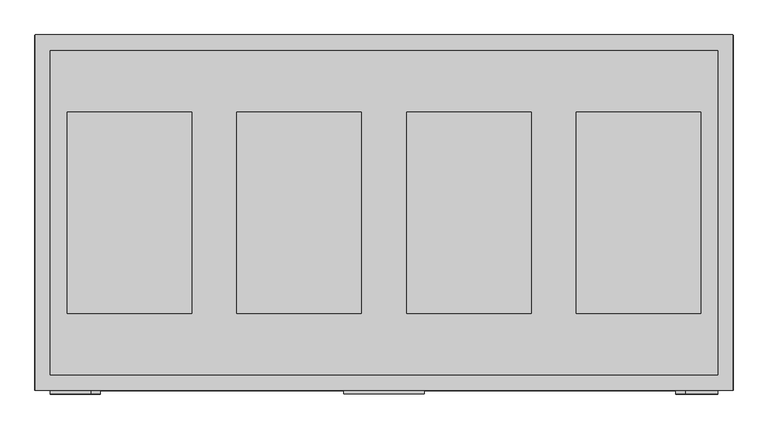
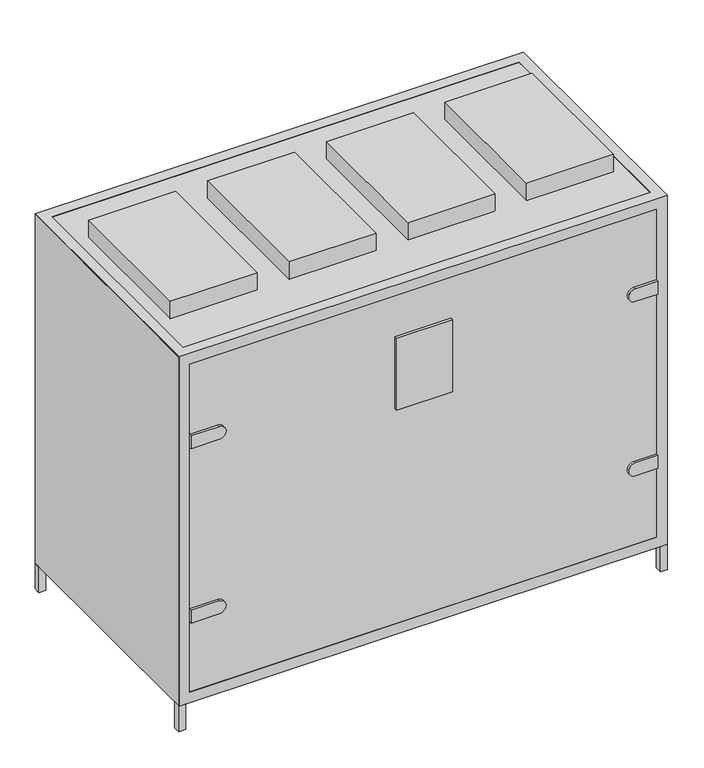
"""IFC4 building model written with IfcOpenShell, lengths in millimetres: proxy geometry, AVS 2200...3800-V-RC(RG) : AVS 2900-V-RG."""

from ifc_helpers import new_model, si_unit, point, frame, frame_2d, origin, origin_with_axes, place, context, project, spatial, polyline, circle_curve, trimmed, segment, composite_curve, outline, extrude, faceted_brep, source, transform, mapped, element, save


def mechanical_equipment_fb35fa56(model_context):
    return source(origin(), model_context, "Body", "SolidModel", [
        extrude(outline(polyline([(875.0, 458.0), (900.0, 458.0), (900.0, 433.0), (875.0, 433.0), (875.0, 458.0)])), origin_with_axes(), (0.0, 0.0, 1.0), 100.0),
        extrude(outline(polyline([(875.0, -458.0), (875.0, -433.0), (900.0, -433.0), (900.0, -458.0), (875.0, -458.0)])), origin_with_axes(), (0.0, 0.0, 1.0), 100.0),
        extrude(outline(polyline([(-900.0, 433.0), (-900.0, 458.0), (-875.0, 458.0), (-875.0, 433.0), (-900.0, 433.0)])), origin_with_axes(), (0.0, 0.0, 1.0), 100.0),
        extrude(outline(polyline([(-900.0, -433.0), (-875.0, -433.0), (-875.0, -458.0), (-900.0, -458.0), (-900.0, -433.0)])), origin_with_axes(), (0.0, 0.0, 1.0), 100.0),
        faceted_brep([(899.0, 459.0, 1458.0), (-899.0, 459.0, 1458.0), (-899.0, -459.0, 1458.0), (899.0, -459.0, 1458.0), (-860.0, 418.0, 1458.0), (20.0, 418.0, 1458.0), (860.0, 418.0, 1458.0), (860.0, -418.0, 1458.0), (20.0, -418.0, 1458.0), (-860.0, -418.0, 1458.0), (899.0, 459.0, 99.0), (899.0, -459.0, 99.0), (-899.0, -459.0, 99.0), (-899.0, 459.0, 99.0), (20.0, 418.0, 99.0), (-860.0, 418.0, 99.0), (-860.0, -418.0, 99.0), (20.0, -418.0, 99.0), (860.0, -418.0, 99.0), (860.0, 418.0, 99.0), (20.0, 459.0, 1417.0), (-860.0, 459.0, 1417.0), (-860.0, 459.0, 140.0), (20.0, 459.0, 140.0), (860.0, 459.0, 140.0), (860.0, 459.0, 1417.0), (-899.0, -418.0, 1417.0), (-899.0, -418.0, 140.0), (-899.0, 418.0, 140.0), (-899.0, 418.0, 1417.0), (-860.0, -459.0, 1417.0), (20.0, -459.0, 1417.0), (860.0, -459.0, 1417.0), (860.0, -459.0, 140.0), (20.0, -459.0, 140.0), (-860.0, -459.0, 140.0), (-860.0, 418.0, 1417.0), (20.0, 418.0, 1417.0), (20.0, 418.0, 140.0), (-860.0, 418.0, 140.0), (20.0, -418.0, 1417.0), (-860.0, -418.0, 1417.0), (-860.0, -418.0, 140.0), (20.0, -418.0, 140.0), (860.0, 418.0, 1417.0), (860.0, -418.0, 1417.0), (860.0, -418.0, 140.0), (860.0, 418.0, 140.0), (866.0, -418.0, 1417.0), (866.0, 418.0, 1417.0), (866.0, 418.0, 140.0), (866.0, -418.0, 140.0)], [[[0, 1, 2, 3], [4, 5, 6, 7, 8, 9]], [[10, 11, 12, 13], [14, 15, 16, 17, 18, 19]], [[1, 0, 10, 13], [20, 21, 22, 23, 24, 25]], [[2, 1, 13, 12], [26, 27, 28, 29]], [[3, 2, 12, 11], [30, 31, 32, 33, 34, 35]], [[0, 3, 11, 10]], [[5, 4, 36, 37]], [[15, 14, 38, 39]], [[9, 8, 40, 41]], [[17, 16, 42, 43]], [[7, 6, 44, 45]], [[19, 18, 46, 47]], [[32, 45, 46, 33]], [[44, 25, 24, 47]], [[30, 41, 40, 31]], [[20, 37, 36, 21]], [[42, 35, 34, 43]], [[38, 23, 22, 39]], [[48, 49, 50, 51]], [[48, 51, 46, 45]], [[26, 41, 42, 27]], [[51, 50, 47, 46]], [[39, 28, 27, 42]], [[50, 49, 44, 47]], [[36, 29, 28, 39]], [[49, 48, 45, 44]], [[29, 36, 41, 26]], [[4, 9, 41, 36]], [[16, 15, 39, 42]], [[41, 30, 35, 42]], [[21, 36, 39, 22]], [[6, 5, 37, 44]], [[14, 19, 47, 38]], [[8, 7, 45, 40]], [[18, 17, 43, 46]], [[45, 32, 31, 40]], [[37, 20, 25, 44]], [[33, 46, 43, 34]], [[23, 38, 47, 24]]]),
        extrude(outline(polyline([(-900.0, 458.0), (900.0, 458.0), (900.0, -458.0), (-900.0, -458.0), (-900.0, 458.0)])), frame((0.0, 0.0, 100.0), z_axis=(0.0, 0.0, 1.0), x_axis=(1.0, 0.0, 0.0)), (0.0, 0.0, 1.0), 1357.0),
        extrude(outline(polyline([(-496.0, 260.0), (-496.0, -260.0), (-816.0, -260.0), (-816.0, 260.0), (-496.0, 260.0)])), frame((0.0, 0.0, 1457.0), z_axis=(0.0, 0.0, 1.0), x_axis=(1.0, 0.0, 0.0)), (0.0, 0.0, 1.0), 68.0),
        extrude(outline(polyline([(-59.0, 260.0), (-59.0, -260.0), (-379.0, -260.0), (-379.0, 260.0), (-59.0, 260.0)])), frame((0.0, 0.0, 1457.0), z_axis=(0.0, 0.0, 1.0), x_axis=(1.0, 0.0, 0.0)), (0.0, 0.0, 1.0), 68.0),
        extrude(outline(polyline([(379.0, 260.0), (379.0, -260.0), (59.0, -260.0), (59.0, 260.0), (379.0, 260.0)])), frame((0.0, 0.0, 1457.0), z_axis=(0.0, 0.0, 1.0), x_axis=(1.0, 0.0, 0.0)), (0.0, 0.0, 1.0), 68.0),
        extrude(outline(polyline([(816.0, 260.0), (816.0, -260.0), (496.0, -260.0), (496.0, 260.0), (816.0, 260.0)])), frame((0.0, 0.0, 1457.0), z_axis=(0.0, 0.0, 1.0), x_axis=(1.0, 0.0, 0.0)), (0.0, 0.0, 1.0), 68.0),
        extrude(outline(composite_curve([segment(polyline([(1142.75, -756.2895396), (1142.75, -860.0), (1092.75, -860.0), (1092.75, -756.2895396)]), True, "CONTINUOUS"), segment(trimmed(circle_curve(frame_2d((1117.75, -756.2895396)), 25.0), [point((1092.75, -756.2895396))], [point((1142.75, -756.2895396))], False, "CARTESIAN"), True, "CONTINUOUS")], self_intersect=False)), frame((0.0, -468.0, 0.0), z_axis=(0.0, 1.0, 0.0), x_axis=(0.0, 0.0, 1.0)), (0.0, 0.0, 1.0), 10.0),
        extrude(outline(composite_curve([segment(polyline([(464.25, -756.2895396), (464.25, -860.0), (414.25, -860.0), (414.25, -756.2895396)]), True, "CONTINUOUS"), segment(trimmed(circle_curve(frame_2d((439.25, -756.2895396)), 25.0), [point((414.25, -756.2895396))], [point((464.25, -756.2895396))], False, "CARTESIAN"), True, "CONTINUOUS")], self_intersect=False)), frame((0.0, -468.0, 0.0), z_axis=(0.0, 1.0, 0.0), x_axis=(0.0, 0.0, 1.0)), (0.0, 0.0, 1.0), 10.0),
        extrude(outline(polyline([(103.159373, -468.0), (-103.159373, -468.0), (-103.159373, -458.0), (103.159373, -458.0), (103.159373, -468.0)])), frame((0.0, 0.0, 977.0590991), z_axis=(0.0, 0.0, 1.0), x_axis=(1.0, 0.0, 0.0)), (0.0, 0.0, 1.0), 281.3818018),
        extrude(outline(composite_curve([segment(trimmed(circle_curve(frame_2d((1117.75, 777.2895396)), 25.0), [point((1142.75, 777.2895396))], [point((1092.75, 777.2895396))], False, "CARTESIAN"), True, "CONTINUOUS"), segment(polyline([(1092.75, 777.2895396), (1092.75, 860.0), (1142.75, 860.0), (1142.75, 777.2895396)]), True, "CONTINUOUS")], self_intersect=False)), frame((0.0, -468.0, 0.0), z_axis=(0.0, 1.0, 0.0), x_axis=(0.0, 0.0, 1.0)), (0.0, 0.0, 1.0), 10.0),
        extrude(outline(composite_curve([segment(trimmed(circle_curve(frame_2d((439.25, 777.2895396)), 25.0), [point((464.25, 777.2895396))], [point((414.25, 777.2895396))], False, "CARTESIAN"), True, "CONTINUOUS"), segment(polyline([(414.25, 777.2895396), (414.25, 860.0), (464.25, 860.0), (464.25, 777.2895396)]), True, "CONTINUOUS")], self_intersect=False)), frame((0.0, -468.0, 0.0), z_axis=(0.0, 1.0, 0.0), x_axis=(0.0, 0.0, 1.0)), (0.0, 0.0, 1.0), 10.0),
    ])


if __name__ == "__main__":
    model = new_model("IFC4")
    model_context = context("Model", 3, world=origin())
    ifc_project = project(units=[si_unit("LENGTHUNIT", "METRE", prefix="MILLI")], contexts=[model_context])
    site = spatial("IfcSite", under=ifc_project)
    building = spatial("IfcBuilding", under=site)
    placement = place(None, origin())
    mechanical_equipment_shape = mechanical_equipment_fb35fa56(model_context)
    element("IfcBuildingElementProxy", 1, Name="AVS 2200...3800-V-RC(RG) : AVS 2900-V-RG", ObjectType="AVS 2200...3800-V-RC(RG) : AVS 2900-V-RG", at=placement, inside=building, context=model_context, shape_type="MappedRepresentation", body=[
        mapped(mechanical_equipment_shape, transform((0.0, 0.0, 0.0), x_axis=(1.0, 0.0, 0.0), y_axis=(0.0, 1.0, 0.0), z_axis=(0.0, 0.0, 1.0))),
    ])
    save(model, "model.ifc")
